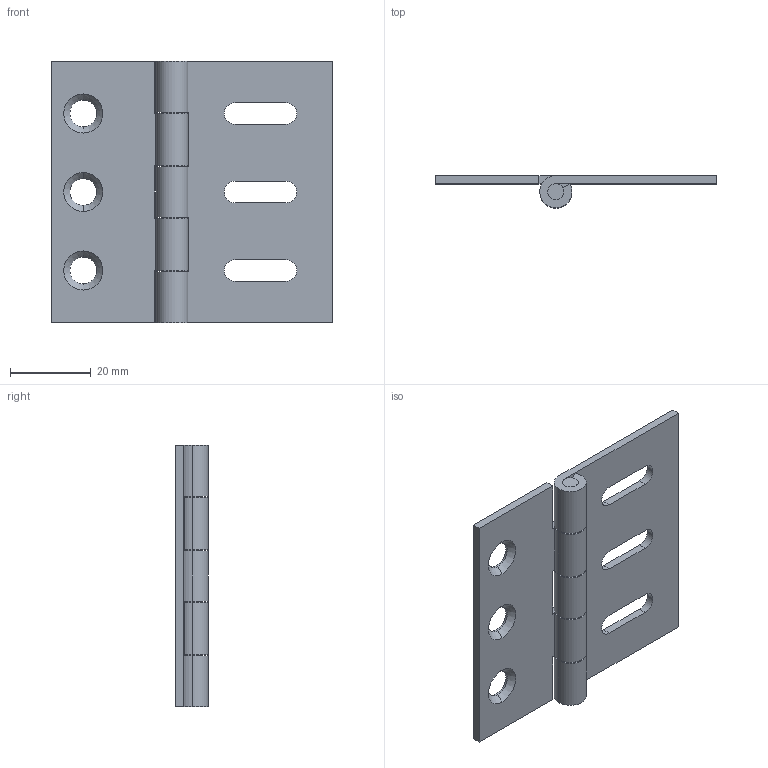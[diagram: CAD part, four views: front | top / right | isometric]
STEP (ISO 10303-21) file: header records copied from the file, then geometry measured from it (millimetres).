
FILE_DESCRIPTION((''),'2;1');
FILE_NAME('6044.01.stp','2012-03-02T16:55:37',(''),(''),'Mechanical Desktop 2006','Mechanical Desktop 2006',', , ');
FILE_SCHEMA(('CONFIG_CONTROL_DESIGN'));
Length unit declared in the file: millimetre
Products named in the file (3): 6044.01; TEIL1; TEIL2
Assembly tree (2 placements, depth 2):
  6044.01
    TEIL1
    TEIL2
Bounding box: 70 x 8 x 65 mm (x, y, z)
Volume: 10527.5 mm3; surface area: 11587.6 mm2
Topology: 2 solids, 2 shells, 88 faces, 252 edges, 166 vertices
Faces by surface type: cylinder 46, plane 36, cone 6
Entity records: 3065 total; most frequent: DIRECTION 540, CARTESIAN_POINT 509, ORIENTED_EDGE 504, EDGE_CURVE 252, AXIS2_PLACEMENT_3D 197, VERTEX_POINT 166, VECTOR 146, LINE 146
